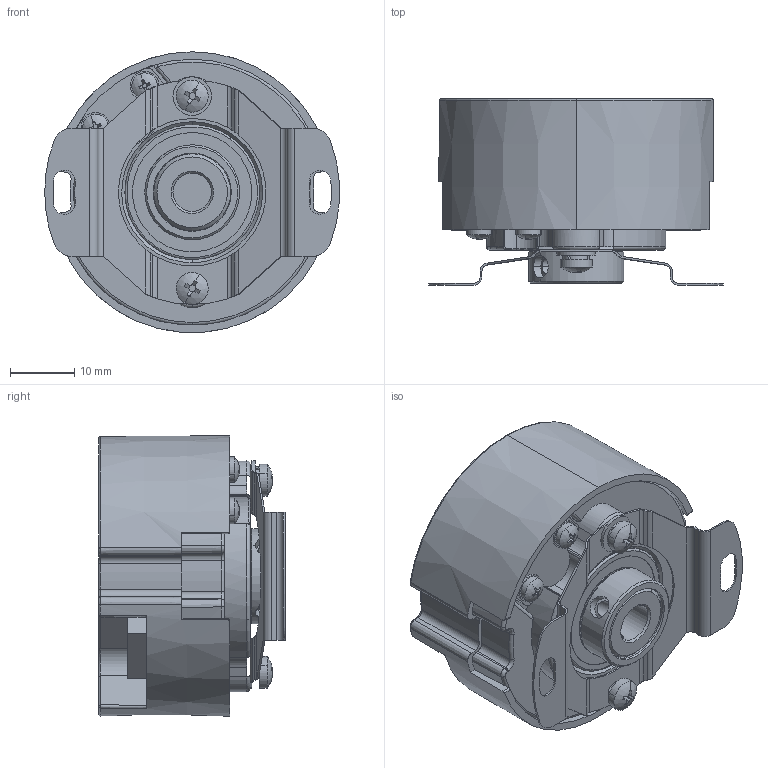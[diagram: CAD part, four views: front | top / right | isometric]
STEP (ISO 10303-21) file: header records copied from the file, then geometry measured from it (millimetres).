
FILE_DESCRIPTION (( 'STEP AP214' ), '1' );
FILE_NAME ('1.STEP', '2022-07-28T04:19:39', ( '' ), ( '' ), 'SwSTEP 2.0', 'SolidWorks 2016', '' );
FILE_SCHEMA (( 'AUTOMOTIVE_DESIGN' ));
Length unit declared in the file: millimetre
Products named in the file (2): 1
Bounding box: 45.94 x 29.11 x 43.74 mm (x, y, z)
Surface area: 16391.3 mm2 (no closed solid volume)
Topology: 0 solids, 25 shells, 673 faces, 1893 edges, 1234 vertices
Faces by surface type: plane 230, cylinder 210, bspline 136, torus 64, cone 23, sphere 10
Entity records: 34108 total; most frequent: CARTESIAN_POINT 10017, ORIENTED_EDGE 3501, DIRECTION 3282, EDGE_CURVE 1891, AXIS2_PLACEMENT_3D 1241, VERTEX_POINT 1234, LINE 800, VECTOR 800
